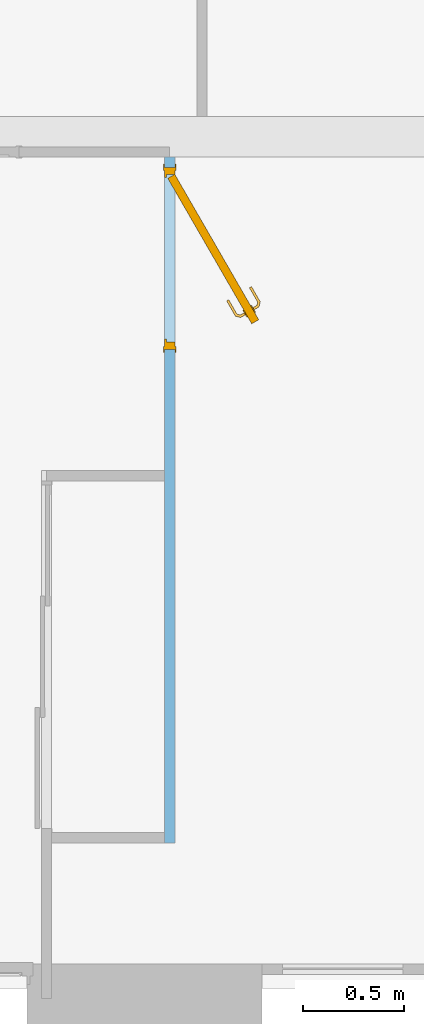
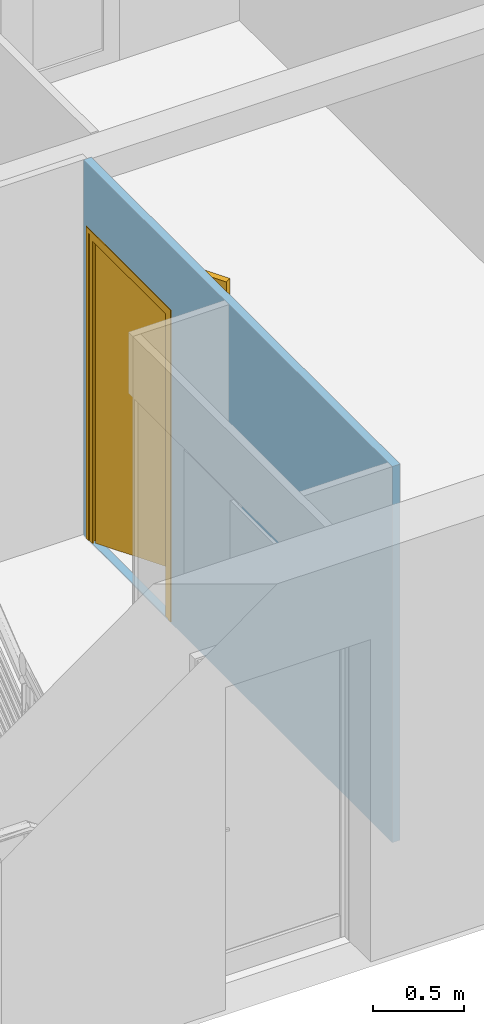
# One storey, part 7 of 9: 1 door, 1 opening, plus 1 element that does not belong to this part.
"""IFC2X3 building model written with IfcOpenShell, lengths in metres."""

from ifc_helpers import new_model, entity, si_unit, converted_unit, derived_unit, direction, frame, frame_2d, origin, place, context, subcontext, project, spatial, rectangle, extrude, faceted_brep, source, transform, mapped, material, material_list, layer, layer_set, layer_usage, type_object, type_shapes, element, fill, save


model = new_model("IFC2X3")

# Units and contexts
model_context = context("Model", 3, precision=1e-05, world=origin(), true_north=direction((6.12303176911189e-17, 1.0)))
body_context = subcontext(model_context, "Body", "Model", "MODEL_VIEW")
ifc_project = project(units=[si_unit("LENGTHUNIT", "METRE"), si_unit("AREAUNIT", "SQUARE_METRE"), si_unit("VOLUMEUNIT", "CUBIC_METRE"), converted_unit("PLANEANGLEUNIT", "DEGREE", entity("IfcRatioMeasure", 0.0174532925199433), si_unit("PLANEANGLEUNIT", "RADIAN"), dimensions=[0, 0, 0, 0, 0, 0, 0]), si_unit("MASSUNIT", "GRAM", prefix="KILO"), si_unit("TIMEUNIT", "SECOND"), si_unit("FREQUENCYUNIT", "HERTZ"), si_unit("THERMODYNAMICTEMPERATUREUNIT", "DEGREE_CELSIUS"), derived_unit("THERMALTRANSMITTANCEUNIT", [(si_unit("MASSUNIT", "GRAM", prefix="KILO"), 1), (si_unit("THERMODYNAMICTEMPERATUREUNIT", "KELVIN"), -1), (si_unit("TIMEUNIT", "SECOND"), -3)]), derived_unit("VOLUMETRICFLOWRATEUNIT", [(si_unit("LENGTHUNIT", "METRE"), 3), (si_unit("TIMEUNIT", "SECOND"), -1)]), si_unit("ELECTRICCURRENTUNIT", "AMPERE"), si_unit("ELECTRICVOLTAGEUNIT", "VOLT"), si_unit("POWERUNIT", "WATT"), si_unit("FORCEUNIT", "NEWTON", prefix="KILO"), si_unit("ILLUMINANCEUNIT", "LUX"), si_unit("LUMINOUSFLUXUNIT", "LUMEN"), si_unit("LUMINOUSINTENSITYUNIT", "CANDELA"), derived_unit("USERDEFINED", [(si_unit("MASSUNIT", "GRAM", prefix="KILO"), -1), (si_unit("LENGTHUNIT", "METRE"), -2), (si_unit("TIMEUNIT", "SECOND"), 3), (si_unit("LUMINOUSFLUXUNIT", "LUMEN"), 1)]), derived_unit("LINEARVELOCITYUNIT", [(si_unit("LENGTHUNIT", "METRE"), 1), (si_unit("TIMEUNIT", "SECOND"), -1)]), si_unit("PRESSUREUNIT", "PASCAL"), derived_unit("USERDEFINED", [(si_unit("LENGTHUNIT", "METRE"), -2), (si_unit("MASSUNIT", "GRAM", prefix="KILO"), 1), (si_unit("TIMEUNIT", "SECOND"), -2)])], contexts=[model_context])

# Site, building, storey
site_placement = place(None, origin())
site = spatial("IfcSite", under=ifc_project, at=site_placement, Name="Surface", CompositionType="ELEMENT")
building_placement = place(site_placement, origin())
building = spatial("IfcBuilding", under=site, at=building_placement, CompositionType="ELEMENT")
storey_placement = place(building_placement, origin())
storey = spatial("IfcBuildingStorey", under=building, at=storey_placement, Name="Rez de chaussée", CompositionType="ELEMENT", Elevation=0.0)

# Wall, opening, door
ifc_material_1 = material(Name="Maçonnerie - Isolant(1)")
ifc_layer = layer(ifc_material_1, 0.05)
ifc_layer_set = layer_set([ifc_layer], Name="Mur de base:Int. plâtre 50 mm")
ifc_layer_usage = layer_usage(ifc_layer_set, "AXIS2", "NEGATIVE", 0.025)
wall_type = type_object("IfcWallType", Name="Mur de base:Int. plâtre 50 mm", PredefinedType="STANDARD", material=ifc_layer_set)
wall_placement = place(storey_placement, frame((-8.25108881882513, 1.51425578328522, -0.00999999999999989), z_axis=(0.0, 0.0, 1.0), x_axis=(0.0, -1.0, 0.0)))
wall = element("IfcWallStandardCase", 1, at=wall_placement, inside=storey, type_object=wall_type, material=ifc_layer_usage, Name="Mur de base:Int. plâtre 50 mm", ObjectType="Mur de base:Int. plâtre 50 mm", context=body_context, shape_type="SweptSolid", body=[
    extrude(rectangle(XDim=3.39000000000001, YDim=0.0499999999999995, at=frame_2d((1.69500000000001, 0.0), x_axis=(-1.0, 0.0))), origin(), (0.0, 0.0, 1.0), 2.52),
])
opening_placement = place(wall_placement, frame((0.05, -0.025, 0.00999999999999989)))
opening = element("IfcOpeningElement", 2, at=opening_placement, cuts=wall, Name="Int. Simple:PP (0.83m x 2.04m):1", ObjectType="Opening", context=body_context, shape_type="SweptSolid", body=[
    extrude(rectangle(XDim=2.075, YDim=0.9, at=frame_2d((1.0375, 0.45), x_axis=(1.0, 0.0))), frame((0.0, 0.0, 0.0), z_axis=(0.0, 1.0, 0.0), x_axis=(0.0, 0.0, 1.0)), (0.0, 0.0, 1.0), 0.05),
])
ifc_material_2 = material(Name="Finition Peinture - Blanc satiné")
ifc_material_3 = material(Name="Bois - Panneau de porte")
ifc_material_4 = material(Name="Bois - Cadre de porte")
ifc_material_list_1 = material_list([ifc_material_2, ifc_material_3, ifc_material_4])
ifc_material_list_2 = material_list([ifc_material_2, ifc_material_3, ifc_material_4])
door_style = type_object("IfcDoorStyle", Name="PP (0.83m x 2.04m)", ConstructionType="NOTDEFINED", OperationType="SINGLE_SWING_LEFT", ParameterTakesPrecedence=False, Sizeable=False, material=ifc_material_list_2)
shared_shape = source(origin(), body_context, "Body", "Brep", [
    faceted_brep([(0.209626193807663, -0.384153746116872, 0.866003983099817), (0.217980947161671, -0.379330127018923, 0.870000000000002), (0.21798094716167, -0.379330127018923, 1.08), (0.209626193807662, -0.384153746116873, 1.08399601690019), (0.200660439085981, -0.389330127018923, 1.08535898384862), (0.191694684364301, -0.394506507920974, 1.08399601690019), (0.183339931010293, -0.399330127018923, 1.08), (0.183339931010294, -0.399330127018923, 0.870000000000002), (0.191694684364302, -0.394506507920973, 0.866003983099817), (0.200660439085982, -0.389330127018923, 0.86464101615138), (0.207126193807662, -0.379823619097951, 1.08399601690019), (0.21548094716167, -0.375000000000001, 1.08), (0.215480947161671, -0.375000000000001, 0.870000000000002), (0.207126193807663, -0.37982361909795, 0.866003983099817), (0.198160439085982, -0.385, 0.86464101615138), (0.189194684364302, -0.390176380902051, 0.866003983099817), (0.180839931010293, -0.395000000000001, 0.870000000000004), (0.180839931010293, -0.395000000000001, 1.08), (0.189194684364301, -0.390176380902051, 1.08399601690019), (0.198160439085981, -0.385000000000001, 1.08535898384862)], [[[0, 1, 2, 3, 4, 5, 6, 7, 8, 9]], [[10, 11, 12, 13, 14, 15, 16, 17, 18, 19]], [[16, 15, 8, 7]], [[8, 15, 14, 9]], [[14, 13, 0, 9]], [[13, 12, 1, 0]], [[2, 1, 12, 11]], [[11, 10, 3, 2]], [[3, 10, 19, 4]], [[19, 18, 5, 4]], [[18, 17, 6, 5]], [[7, 6, 17, 16]]]),
    faceted_brep([(0.187126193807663, -0.345182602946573, 0.866003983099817), (0.195480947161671, -0.340358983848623, 0.870000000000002), (0.19548094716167, -0.340358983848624, 1.08), (0.187126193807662, -0.345182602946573, 1.08399601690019), (0.178160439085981, -0.350358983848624, 1.08535898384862), (0.169194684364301, -0.355535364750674, 1.08399601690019), (0.160839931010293, -0.360358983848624, 1.08), (0.160839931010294, -0.360358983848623, 0.870000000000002), (0.169194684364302, -0.355535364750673, 0.866003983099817), (0.178160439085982, -0.350358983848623, 0.86464101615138), (0.184626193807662, -0.340852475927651, 1.08399601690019), (0.19298094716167, -0.336028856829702, 1.08), (0.192980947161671, -0.336028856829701, 0.870000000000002), (0.184626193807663, -0.34085247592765, 0.866003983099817), (0.175660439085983, -0.346028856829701, 0.86464101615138), (0.166694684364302, -0.351205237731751, 0.866003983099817), (0.158339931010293, -0.356028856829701, 0.870000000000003), (0.158339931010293, -0.356028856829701, 1.08), (0.166694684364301, -0.351205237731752, 1.08399601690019), (0.175660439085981, -0.346028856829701, 1.08535898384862)], [[[0, 1, 2, 3, 4, 5, 6, 7, 8, 9]], [[10, 11, 12, 13, 14, 15, 16, 17, 18, 19]], [[11, 10, 3, 2]], [[3, 10, 19, 4]], [[19, 18, 5, 4]], [[18, 17, 6, 5]], [[7, 6, 17, 16]], [[16, 15, 8, 7]], [[8, 15, 14, 9]], [[14, 13, 0, 9]], [[13, 12, 1, 0]], [[2, 1, 12, 11]]]),
    faceted_brep([(0.198906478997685, -0.390342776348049, 1.00778044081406), (0.202414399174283, -0.388317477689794, 1.00778044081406), (0.205856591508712, -0.386330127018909, 1.00699999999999), (0.205856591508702, -0.386330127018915, 0.993000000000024), (0.202414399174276, -0.388317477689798, 0.992219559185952), (0.198906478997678, -0.390342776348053, 0.99221955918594), (0.195464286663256, -0.392330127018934, 0.992999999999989), (0.195464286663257, -0.392330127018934, 1.007), (0.20928976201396, -0.416276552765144, 1.007), (0.211908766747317, -0.412863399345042, 1.00778044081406), (0.233831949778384, -0.418737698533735, 1.00778044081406), (0.233259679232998, -0.414390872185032, 1.00778044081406), (0.21457778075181, -0.409385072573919, 1.00778044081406), (0.217196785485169, -0.405971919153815, 1.007), (0.21719678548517, -0.40597191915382, 0.993000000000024), (0.214577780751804, -0.409385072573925, 0.992219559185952), (0.233259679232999, -0.414390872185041, 0.992219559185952), (0.233831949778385, -0.418737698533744, 0.99221955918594), (0.211908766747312, -0.412863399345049, 0.99221955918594), (0.209289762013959, -0.416276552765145, 0.992999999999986), (0.234393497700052, -0.423003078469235, 1.007), (0.232698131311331, -0.410125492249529, 1.007), (0.232698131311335, -0.410125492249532, 0.993000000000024), (0.234393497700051, -0.423003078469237, 0.992999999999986), (0.310293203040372, -0.379182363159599, 0.992999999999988), (0.308305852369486, -0.375740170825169, 0.99221955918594), (0.306280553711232, -0.372232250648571, 0.992219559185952), (0.304293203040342, -0.368790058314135, 0.993000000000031), (0.304293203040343, -0.368790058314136, 1.007), (0.306280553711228, -0.372232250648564, 1.00778044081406), (0.308305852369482, -0.375740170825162, 1.00778044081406), (0.310293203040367, -0.379182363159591, 1.00699999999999), (0.268974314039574, -0.403037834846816, 1.007), (0.270782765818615, -0.395065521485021, 1.0078786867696), (0.268495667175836, -0.389457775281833, 1.007), (0.26849566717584, -0.389457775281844, 0.993000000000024), (0.270782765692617, -0.395065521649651, 0.992121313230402), (0.268974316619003, -0.403037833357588, 0.992999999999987)], [[[0, 1, 2, 3, 4, 5, 6, 7]], [[8, 9, 0, 7]], [[9, 10, 11, 12, 1, 0]], [[12, 13, 2, 1]], [[3, 2, 13, 14]], [[14, 15, 4, 3]], [[15, 16, 17, 18, 5, 4]], [[18, 19, 6, 5]], [[7, 6, 19, 8]], [[20, 10, 9, 8]], [[11, 21, 13, 12]], [[14, 13, 21, 22]], [[22, 16, 15, 14]], [[17, 23, 19, 18]], [[8, 19, 23, 20]], [[24, 25, 26, 27, 28, 29, 30, 31]], [[32, 30, 33]], [[31, 30, 32]], [[10, 20, 32]], [[33, 34, 11]], [[21, 11, 34]], [[34, 29, 28]], [[30, 29, 33]], [[29, 34, 33]], [[10, 32, 33]], [[10, 33, 11]], [[22, 21, 34, 28, 27, 35]], [[35, 26, 36]], [[37, 36, 25]], [[22, 35, 16]], [[35, 27, 26]], [[24, 37, 25]], [[23, 17, 37]], [[37, 17, 36]], [[17, 16, 36]], [[16, 35, 36]], [[25, 36, 26]], [[20, 23, 37, 24, 31, 32]]]),
    faceted_brep([(0.173906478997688, -0.347041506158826, 1.00778044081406), (0.170464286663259, -0.349028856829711, 1.007), (0.17046428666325, -0.349028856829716, 0.992999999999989), (0.17390647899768, -0.34704150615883, 0.99221955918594), (0.177414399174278, -0.345016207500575, 0.992219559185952), (0.180856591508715, -0.343028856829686, 0.993000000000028), (0.180856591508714, -0.343028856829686, 1.007), (0.177414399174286, -0.345016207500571, 1.00778044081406), (0.169613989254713, -0.323556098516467, 0.993000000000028), (0.169613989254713, -0.323556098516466, 1.007), (0.165348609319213, -0.324117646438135, 1.00778044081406), (0.170404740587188, -0.305247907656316, 1.00778044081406), (0.166926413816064, -0.302578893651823, 1.00778044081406), (0.161001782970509, -0.32468991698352, 1.00778044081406), (0.156736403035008, -0.325251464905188, 1.007), (0.156736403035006, -0.325251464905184, 0.992999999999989), (0.1610017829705, -0.324689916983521, 0.99221955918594), (0.166926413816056, -0.302578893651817, 0.99221955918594), (0.17040474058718, -0.30524790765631, 0.992219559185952), (0.165348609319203, -0.324117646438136, 0.992219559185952), (0.17381789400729, -0.307866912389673, 0.993000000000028), (0.17381789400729, -0.307866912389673, 1.007), (0.163513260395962, -0.299959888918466, 1.007), (0.163513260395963, -0.299959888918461, 0.992999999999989), (0.245317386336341, -0.266586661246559, 0.993000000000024), (0.243330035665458, -0.263144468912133, 0.992219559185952), (0.241304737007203, -0.259636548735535, 0.99221955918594), (0.239317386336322, -0.256194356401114, 0.992999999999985), (0.239317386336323, -0.256194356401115, 1.007), (0.241304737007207, -0.259636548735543, 1.00778044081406), (0.243330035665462, -0.263144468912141, 1.00778044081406), (0.245317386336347, -0.26658666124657, 1.007), (0.209567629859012, -0.287226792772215, 0.993000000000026), (0.209567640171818, -0.287226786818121, 1.007), (0.205854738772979, -0.282442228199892, 1.0078786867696), (0.198094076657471, -0.279994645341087, 1.007), (0.198094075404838, -0.279994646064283, 0.992999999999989), (0.205854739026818, -0.282442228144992, 0.992121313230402)], [[[0, 1, 2, 3, 4, 5, 6, 7]], [[6, 5, 8, 9]], [[9, 10, 7, 6]], [[10, 11, 12, 13, 0, 7]], [[13, 14, 1, 0]], [[2, 1, 14, 15]], [[15, 16, 3, 2]], [[16, 17, 18, 19, 4, 3]], [[19, 8, 5, 4]], [[9, 8, 20, 21]], [[21, 11, 10, 9]], [[12, 22, 14, 13]], [[15, 14, 22, 23]], [[23, 17, 16, 15]], [[18, 20, 8, 19]], [[24, 25, 26, 27, 28, 29, 30, 31]], [[21, 20, 32, 24, 31, 33]], [[33, 30, 34]], [[35, 34, 29]], [[21, 33, 11]], [[33, 31, 30]], [[28, 35, 29]], [[22, 12, 35]], [[35, 12, 34]], [[12, 11, 34]], [[11, 33, 34]], [[29, 34, 30]], [[22, 35, 28, 27, 36, 23]], [[36, 26, 37]], [[27, 26, 36]], [[17, 23, 36]], [[37, 32, 18]], [[20, 18, 32]], [[32, 25, 24]], [[26, 25, 37]], [[25, 32, 37]], [[17, 36, 37]], [[17, 37, 18]]]),
    faceted_brep([(0.126198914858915, -0.380358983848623, 2.04), (0.845, 0.0346410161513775, 2.04), (0.844999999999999, 0.0346410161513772, 0.0), (0.126198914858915, -0.380358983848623, 0.0), (0.146198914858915, -0.415, 2.04), (0.146198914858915, -0.415, 0.0), (0.864999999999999, 0.0, 0.0), (0.865, 0.0, 2.04)], [[[0, 1, 2, 3]], [[4, 5, 6, 7]], [[1, 0, 4, 7]], [[2, 1, 7, 6]], [[3, 2, 6, 5]], [[0, 3, 5, 4]]]),
    faceted_brep([(0.0, 0.0, 0.0), (0.0, 0.050000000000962, 0.0), (0.0499999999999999, 0.050000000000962, 0.0), (0.0499999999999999, 0.040000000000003, 0.0), (0.0349999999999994, 0.040000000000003, 0.0), (0.0349999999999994, 0.0, 0.0), (0.0, 0.0, 2.07500000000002), (0.0, 0.050000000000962, 2.07500000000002), (0.900000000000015, 0.050000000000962, 2.07500000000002), (0.900000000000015, 0.050000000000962, 0.0), (0.85, 0.050000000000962, 0.0), (0.85, 0.050000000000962, 2.025), (0.0500000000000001, 0.050000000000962, 2.025), (0.05, 0.040000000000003, 2.025), (0.85, 0.040000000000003, 2.025), (0.85, 0.040000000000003, 0.0), (0.865, 0.040000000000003, 0.0), (0.865, 0.040000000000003, 2.04), (0.0349999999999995, 0.040000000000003, 2.04), (0.0349999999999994, 0.0, 2.04), (0.865, 0.0, 2.04), (0.865, 0.0, 0.0), (0.900000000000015, 0.0, 0.0), (0.900000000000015, 0.0, 2.07500000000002)], [[[0, 1, 2, 3, 4, 5]], [[1, 0, 6, 7]], [[2, 1, 7, 8, 9, 10, 11, 12]], [[3, 2, 12, 13]], [[4, 3, 13, 14, 15, 16, 17, 18]], [[5, 4, 18, 19]], [[0, 5, 19, 20, 21, 22, 23, 6]], [[8, 23, 22, 9]], [[22, 21, 16, 15, 10, 9]], [[14, 11, 10, 15]], [[20, 17, 16, 21]], [[7, 6, 23, 8]], [[13, 12, 11, 14]], [[19, 18, 17, 20]]]),
    faceted_brep([(0.0149999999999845, 0.050000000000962, 0.0), (-0.0150000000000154, 0.050000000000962, 0.0), (-0.0150000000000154, 0.055000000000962, 0.0), (0.0149999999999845, 0.055000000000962, 0.0), (0.0149999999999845, 0.050000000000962, 2.06000000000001), (0.884999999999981, 0.050000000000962, 2.06000000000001), (0.88499999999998, 0.050000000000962, 0.0), (0.91499999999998, 0.050000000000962, 0.0), (0.91499999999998, 0.050000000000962, 2.09000000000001), (-0.0150000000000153, 0.050000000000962, 2.09000000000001), (-0.0150000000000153, 0.055000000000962, 2.09000000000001), (0.91499999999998, 0.055000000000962, 2.09000000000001), (0.91499999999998, 0.055000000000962, 0.0), (0.88499999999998, 0.055000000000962, 0.0), (0.88499999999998, 0.055000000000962, 2.06000000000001), (0.0149999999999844, 0.055000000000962, 2.06000000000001)], [[[0, 1, 2, 3]], [[1, 0, 4, 5, 6, 7, 8, 9]], [[2, 1, 9, 10]], [[3, 2, 10, 11, 12, 13, 14, 15]], [[0, 3, 15, 4]], [[6, 13, 12, 7]], [[5, 14, 13, 6]], [[11, 8, 7, 12]], [[10, 9, 8, 11]], [[4, 15, 14, 5]]]),
    faceted_brep([(-0.0150000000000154, -0.005, 0.0), (0.0149999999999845, -0.005, 0.0), (0.0149999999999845, -0.005, 2.06000000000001), (0.884999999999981, -0.005, 2.06000000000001), (0.88499999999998, -0.005, 0.0), (0.91499999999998, -0.005, 0.0), (0.91499999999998, -0.005, 2.09000000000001), (-0.0150000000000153, -0.005, 2.09000000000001), (-0.0150000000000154, 0.0, 0.0), (-0.0150000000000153, 0.0, 2.09000000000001), (0.0149999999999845, 0.0, 0.0), (0.91499999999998, 0.0, 2.09000000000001), (0.91499999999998, 0.0, 0.0), (0.88499999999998, 0.0, 0.0), (0.88499999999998, 0.0, 2.06000000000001), (0.0149999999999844, 0.0, 2.06000000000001)], [[[0, 1, 2, 3, 4, 5, 6, 7]], [[8, 0, 7, 9]], [[10, 8, 9, 11, 12, 13, 14, 15]], [[1, 10, 15, 2]], [[3, 14, 13, 4]], [[11, 6, 5, 12]], [[9, 7, 6, 11]], [[2, 15, 14, 3]], [[4, 13, 12, 5]], [[1, 0, 8, 10]]]),
])
type_shapes(door_style, [shared_shape])
door_placement = place(opening_placement, frame((0.9, 0.0500000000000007, 0.0), z_axis=(0.0, 0.0, 1.0), x_axis=(-1.0, 0.0, 0.0)))
door = element("IfcDoor", 3, at=door_placement, inside=storey, type_object=door_style, material=ifc_material_list_1, Name="Int. Simple:PP (0.83m x 2.04m)", ObjectType="PP (0.83m x 2.04m)", OverallHeight=2.075, OverallWidth=0.9, context=body_context, shape_type="MappedRepresentation", body=[
    mapped(shared_shape, transform((0.0, 0.0, 0.0), scale=1.0)),
])
fill(opening, door)

save(model, "model.ifc")
